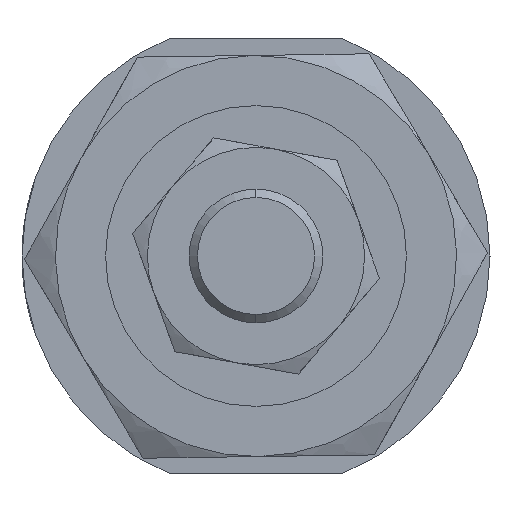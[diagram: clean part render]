
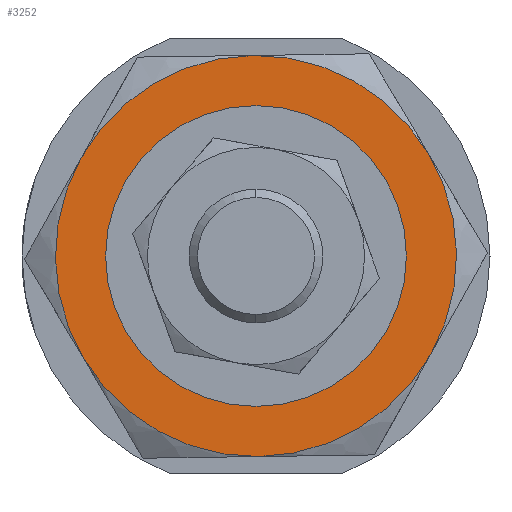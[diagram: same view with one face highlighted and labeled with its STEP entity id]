
A CAD part, left-side view. The second image highlights one B-rep face of the part: STEP entity #3252.
In plain terms, the highlighted planar face has unit normal (-1, 0, 0) as drawn and (0, 0, -1) by its records, which use the part's own axes.
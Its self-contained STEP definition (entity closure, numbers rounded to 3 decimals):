
#20 = VERTEX_POINT ( 'NONE', #325 ) ;
#40 = AXIS2_PLACEMENT_3D ( 'NONE', #3149, #2668, #2865 ) ;
#52 = AXIS2_PLACEMENT_3D ( 'NONE', #1359, #1423, #331 ) ;
#106 = VERTEX_POINT ( 'NONE', #980 ) ;
#243 = CIRCLE ( 'NONE', #2543, 12. ) ;
#269 = CARTESIAN_POINT ( 'NONE',  ( 0., 0., -4. ) ) ;
#283 = AXIS2_PLACEMENT_3D ( 'NONE', #2531, #1459, #1287 ) ;
#325 = CARTESIAN_POINT ( 'NONE',  ( 8.25, 0., -4. ) ) ;
#330 = DIRECTION ( 'NONE',  ( 0., 0., 1. ) ) ;
#331 = DIRECTION ( 'NONE',  ( 1., 0., 0. ) ) ;
#359 = ORIENTED_EDGE ( 'NONE', *, *, #1993, .F. ) ;
#369 = ORIENTED_EDGE ( 'NONE', *, *, #862, .F. ) ;
#376 = EDGE_CURVE ( 'NONE', #2234, #3128, #2861, .T. ) ;
#465 = DIRECTION ( 'NONE',  ( 1., 0., 0. ) ) ;
#494 = CARTESIAN_POINT ( 'NONE',  ( 12., 0., -4. ) ) ;
#529 = CARTESIAN_POINT ( 'NONE',  ( -6., -10.392, -4. ) ) ;
#553 = DIRECTION ( 'NONE',  ( 1., 0., 0. ) ) ;
#611 = EDGE_CURVE ( 'NONE', #3128, #3228, #1317, .T. ) ;
#663 = CARTESIAN_POINT ( 'NONE',  ( 0., 0., -4. ) ) ;
#743 = EDGE_CURVE ( 'NONE', #2834, #3125, #2574, .T. ) ;
#747 = ORIENTED_EDGE ( 'NONE', *, *, #743, .F. ) ;
#767 = AXIS2_PLACEMENT_3D ( 'NONE', #269, #1923, #465 ) ;
#793 = EDGE_LOOP ( 'NONE', ( #1058, #1782 ) ) ;
#862 = EDGE_CURVE ( 'NONE', #1350, #2834, #243, .T. ) ;
#865 = CIRCLE ( 'NONE', #283, 12. ) ;
#891 = AXIS2_PLACEMENT_3D ( 'NONE', #663, #1762, #2275 ) ;
#980 = CARTESIAN_POINT ( 'NONE',  ( -8.25, 0., -4. ) ) ;
#1058 = ORIENTED_EDGE ( 'NONE', *, *, #1455, .T. ) ;
#1097 = DIRECTION ( 'NONE',  ( 0., 0., 1. ) ) ;
#1245 = EDGE_CURVE ( 'NONE', #3228, #1350, #2081, .T. ) ;
#1246 = FACE_OUTER_BOUND ( 'NONE', #2493, .T. ) ;
#1266 = AXIS2_PLACEMENT_3D ( 'NONE', #1852, #2663, #2974 ) ;
#1287 = DIRECTION ( 'NONE',  ( 1., 0., 0. ) ) ;
#1317 = CIRCLE ( 'NONE', #767, 12. ) ;
#1323 = DIRECTION ( 'NONE',  ( 1., 0., 0. ) ) ;
#1332 = CARTESIAN_POINT ( 'NONE',  ( 0., 0., -4. ) ) ;
#1348 = ORIENTED_EDGE ( 'NONE', *, *, #611, .F. ) ;
#1350 = VERTEX_POINT ( 'NONE', #494 ) ;
#1359 = CARTESIAN_POINT ( 'NONE',  ( 0., 0., -4. ) ) ;
#1423 = DIRECTION ( 'NONE',  ( 0., 0., 1. ) ) ;
#1455 = EDGE_CURVE ( 'NONE', #20, #106, #2754, .T. ) ;
#1459 = DIRECTION ( 'NONE',  ( 0., 0., 1. ) ) ;
#1732 = AXIS2_PLACEMENT_3D ( 'NONE', #1332, #1097, #553 ) ;
#1762 = DIRECTION ( 'NONE',  ( 0., 0., 1. ) ) ;
#1782 = ORIENTED_EDGE ( 'NONE', *, *, #1861, .T. ) ;
#1852 = CARTESIAN_POINT ( 'NONE',  ( 0., 0., -4. ) ) ;
#1861 = EDGE_CURVE ( 'NONE', #106, #20, #2995, .T. ) ;
#1923 = DIRECTION ( 'NONE',  ( 0., 0., 1. ) ) ;
#1972 = ORIENTED_EDGE ( 'NONE', *, *, #376, .F. ) ;
#1993 = EDGE_CURVE ( 'NONE', #3125, #2234, #865, .T. ) ;
#2042 = FACE_BOUND ( 'NONE', #793, .T. ) ;
#2081 = CIRCLE ( 'NONE', #891, 12. ) ;
#2196 = CARTESIAN_POINT ( 'NONE',  ( -12., 0., -4. ) ) ;
#2206 = DIRECTION ( 'NONE',  ( 1., 0., 0. ) ) ;
#2234 = VERTEX_POINT ( 'NONE', #2196 ) ;
#2275 = DIRECTION ( 'NONE',  ( 1., 0., 0. ) ) ;
#2279 = CARTESIAN_POINT ( 'NONE',  ( 6., 10.392, -4. ) ) ;
#2398 = CARTESIAN_POINT ( 'NONE',  ( -6., 10.392, -4. ) ) ;
#2402 = CARTESIAN_POINT ( 'NONE',  ( 6., -10.392, -4. ) ) ;
#2493 = EDGE_LOOP ( 'NONE', ( #369, #2940, #1348, #1972, #359, #747 ) ) ;
#2531 = CARTESIAN_POINT ( 'NONE',  ( 0., 0., -4. ) ) ;
#2543 = AXIS2_PLACEMENT_3D ( 'NONE', #2823, #3101, #1323 ) ;
#2574 = CIRCLE ( 'NONE', #40, 12. ) ;
#2663 = DIRECTION ( 'NONE',  ( 0., 0., 1. ) ) ;
#2668 = DIRECTION ( 'NONE',  ( 0., 0., 1. ) ) ;
#2754 = CIRCLE ( 'NONE', #2922, 8.25 ) ;
#2823 = CARTESIAN_POINT ( 'NONE',  ( 0., 0., -4. ) ) ;
#2834 = VERTEX_POINT ( 'NONE', #2279 ) ;
#2861 = CIRCLE ( 'NONE', #1732, 12. ) ;
#2865 = DIRECTION ( 'NONE',  ( 1., 0., 0. ) ) ;
#2922 = AXIS2_PLACEMENT_3D ( 'NONE', #3193, #330, #2206 ) ;
#2940 = ORIENTED_EDGE ( 'NONE', *, *, #1245, .F. ) ;
#2974 = DIRECTION ( 'NONE',  ( 1., 0., 0. ) ) ;
#2995 = CIRCLE ( 'NONE', #1266, 8.25 ) ;
#3024 = PLANE ( 'NONE',  #52 ) ;
#3101 = DIRECTION ( 'NONE',  ( 0., 0., 1. ) ) ;
#3125 = VERTEX_POINT ( 'NONE', #2398 ) ;
#3128 = VERTEX_POINT ( 'NONE', #529 ) ;
#3149 = CARTESIAN_POINT ( 'NONE',  ( 0., 0., -4. ) ) ;
#3193 = CARTESIAN_POINT ( 'NONE',  ( 0., 0., -4. ) ) ;
#3228 = VERTEX_POINT ( 'NONE', #2402 ) ;
#3252 = ADVANCED_FACE ( 'NONE', ( #2042, #1246 ), #3024, .F. ) ;
